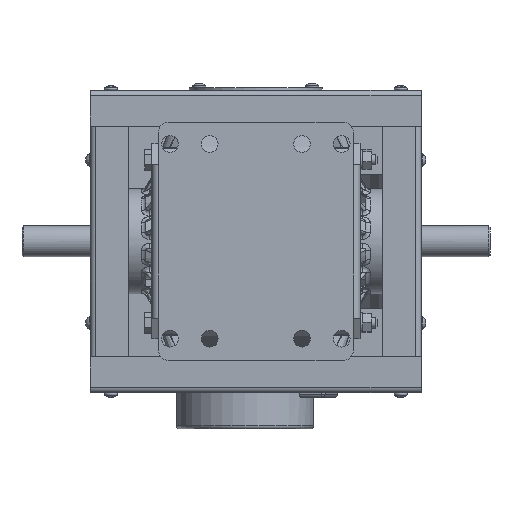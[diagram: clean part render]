
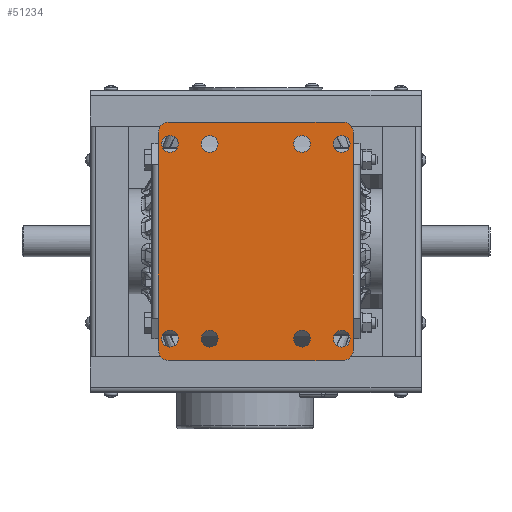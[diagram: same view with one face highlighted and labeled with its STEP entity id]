
A CAD part, left-side view. The second image highlights one B-rep face of the part: STEP entity #51234.
In plain terms, the highlighted planar face has unit normal (-1, 0, 0).
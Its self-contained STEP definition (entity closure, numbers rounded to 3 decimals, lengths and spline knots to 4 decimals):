
#5573=LINE('',#116943,#7912);
#5574=LINE('',#116945,#7913);
#5575=LINE('',#116947,#7914);
#5576=LINE('',#116951,#7915);
#5577=LINE('',#116955,#7916);
#5578=LINE('',#116957,#7917);
#5579=LINE('',#116959,#7918);
#5580=LINE('',#116963,#7919);
#7912=VECTOR('',#68269,39.3701);
#7913=VECTOR('',#68270,39.3701);
#7914=VECTOR('',#68271,39.3701);
#7915=VECTOR('',#68274,39.3701);
#7916=VECTOR('',#68277,39.3701);
#7917=VECTOR('',#68278,39.3701);
#7918=VECTOR('',#68279,39.3701);
#7919=VECTOR('',#68282,39.3701);
#9422=FACE_BOUND('',#15069,.T.);
#9423=FACE_BOUND('',#15070,.T.);
#9424=FACE_BOUND('',#15071,.T.);
#9425=FACE_BOUND('',#15072,.T.);
#9426=FACE_BOUND('',#15073,.T.);
#9427=FACE_BOUND('',#15074,.T.);
#9428=FACE_BOUND('',#15075,.T.);
#9429=FACE_BOUND('',#15076,.T.);
#11614=FACE_OUTER_BOUND('',#15068,.T.);
#15068=EDGE_LOOP('',(#42826,#42827,#42828,#42829,#42830,#42831,#42832,#42833,
#42834,#42835,#42836,#42837));
#15069=EDGE_LOOP('',(#42838));
#15070=EDGE_LOOP('',(#42839));
#15071=EDGE_LOOP('',(#42840));
#15072=EDGE_LOOP('',(#42841));
#15073=EDGE_LOOP('',(#42842));
#15074=EDGE_LOOP('',(#42843));
#15075=EDGE_LOOP('',(#42844));
#15076=EDGE_LOOP('',(#42845));
#18513=CIRCLE('',#56420,0.2031);
#18515=CIRCLE('',#56423,0.2031);
#18517=CIRCLE('',#56426,0.2031);
#18519=CIRCLE('',#56429,0.2031);
#18521=CIRCLE('',#56432,0.2031);
#18523=CIRCLE('',#56435,0.2031);
#18525=CIRCLE('',#56438,0.2031);
#18527=CIRCLE('',#56441,0.2031);
#18539=CIRCLE('',#56457,0.25);
#18540=CIRCLE('',#56458,0.25);
#18541=CIRCLE('',#56459,0.25);
#18542=CIRCLE('',#56460,0.25);
#22794=VERTEX_POINT('',#116859);
#22796=VERTEX_POINT('',#116865);
#22798=VERTEX_POINT('',#116871);
#22800=VERTEX_POINT('',#116877);
#22802=VERTEX_POINT('',#116883);
#22804=VERTEX_POINT('',#116889);
#22806=VERTEX_POINT('',#116895);
#22808=VERTEX_POINT('',#116901);
#22823=VERTEX_POINT('',#116941);
#22824=VERTEX_POINT('',#116942);
#22825=VERTEX_POINT('',#116944);
#22826=VERTEX_POINT('',#116946);
#22827=VERTEX_POINT('',#116948);
#22828=VERTEX_POINT('',#116950);
#22829=VERTEX_POINT('',#116952);
#22830=VERTEX_POINT('',#116954);
#22831=VERTEX_POINT('',#116956);
#22832=VERTEX_POINT('',#116958);
#22833=VERTEX_POINT('',#116960);
#22834=VERTEX_POINT('',#116962);
#29619=EDGE_CURVE('',#22794,#22794,#18513,.T.);
#29622=EDGE_CURVE('',#22796,#22796,#18515,.T.);
#29625=EDGE_CURVE('',#22798,#22798,#18517,.T.);
#29628=EDGE_CURVE('',#22800,#22800,#18519,.T.);
#29631=EDGE_CURVE('',#22802,#22802,#18521,.T.);
#29634=EDGE_CURVE('',#22804,#22804,#18523,.T.);
#29637=EDGE_CURVE('',#22806,#22806,#18525,.T.);
#29640=EDGE_CURVE('',#22808,#22808,#18527,.T.);
#29661=EDGE_CURVE('',#22823,#22824,#5573,.T.);
#29662=EDGE_CURVE('',#22823,#22825,#5574,.T.);
#29663=EDGE_CURVE('',#22826,#22825,#5575,.T.);
#29664=EDGE_CURVE('',#22826,#22827,#18539,.T.);
#29665=EDGE_CURVE('',#22828,#22827,#5576,.T.);
#29666=EDGE_CURVE('',#22828,#22829,#18540,.T.);
#29667=EDGE_CURVE('',#22830,#22829,#5577,.T.);
#29668=EDGE_CURVE('',#22830,#22831,#5578,.T.);
#29669=EDGE_CURVE('',#22832,#22831,#5579,.T.);
#29670=EDGE_CURVE('',#22832,#22833,#18541,.T.);
#29671=EDGE_CURVE('',#22834,#22833,#5580,.T.);
#29672=EDGE_CURVE('',#22834,#22824,#18542,.T.);
#42826=ORIENTED_EDGE('',*,*,#29661,.F.);
#42827=ORIENTED_EDGE('',*,*,#29662,.T.);
#42828=ORIENTED_EDGE('',*,*,#29663,.F.);
#42829=ORIENTED_EDGE('',*,*,#29664,.T.);
#42830=ORIENTED_EDGE('',*,*,#29665,.F.);
#42831=ORIENTED_EDGE('',*,*,#29666,.T.);
#42832=ORIENTED_EDGE('',*,*,#29667,.F.);
#42833=ORIENTED_EDGE('',*,*,#29668,.T.);
#42834=ORIENTED_EDGE('',*,*,#29669,.F.);
#42835=ORIENTED_EDGE('',*,*,#29670,.T.);
#42836=ORIENTED_EDGE('',*,*,#29671,.F.);
#42837=ORIENTED_EDGE('',*,*,#29672,.T.);
#42838=ORIENTED_EDGE('',*,*,#29640,.T.);
#42839=ORIENTED_EDGE('',*,*,#29637,.T.);
#42840=ORIENTED_EDGE('',*,*,#29634,.T.);
#42841=ORIENTED_EDGE('',*,*,#29631,.T.);
#42842=ORIENTED_EDGE('',*,*,#29619,.T.);
#42843=ORIENTED_EDGE('',*,*,#29622,.T.);
#42844=ORIENTED_EDGE('',*,*,#29625,.T.);
#42845=ORIENTED_EDGE('',*,*,#29628,.T.);
#48927=PLANE('',#56456);
#51234=ADVANCED_FACE('',(#11614,#9422,#9423,#9424,#9425,#9426,#9427,#9428,
#9429),#48927,.T.);
#56420=AXIS2_PLACEMENT_3D('',#116860,#68179,#68180);
#56423=AXIS2_PLACEMENT_3D('',#116866,#68186,#68187);
#56426=AXIS2_PLACEMENT_3D('',#116872,#68193,#68194);
#56429=AXIS2_PLACEMENT_3D('',#116878,#68200,#68201);
#56432=AXIS2_PLACEMENT_3D('',#116884,#68207,#68208);
#56435=AXIS2_PLACEMENT_3D('',#116890,#68214,#68215);
#56438=AXIS2_PLACEMENT_3D('',#116896,#68221,#68222);
#56441=AXIS2_PLACEMENT_3D('',#116902,#68228,#68229);
#56456=AXIS2_PLACEMENT_3D('',#116940,#68267,#68268);
#56457=AXIS2_PLACEMENT_3D('',#116949,#68272,#68273);
#56458=AXIS2_PLACEMENT_3D('',#116953,#68275,#68276);
#56459=AXIS2_PLACEMENT_3D('',#116961,#68280,#68281);
#56460=AXIS2_PLACEMENT_3D('',#116964,#68283,#68284);
#68179=DIRECTION('center_axis',(1.,0.,0.));
#68180=DIRECTION('ref_axis',(0.,-1.,0.));
#68186=DIRECTION('center_axis',(1.,0.,0.));
#68187=DIRECTION('ref_axis',(0.,-1.,0.));
#68193=DIRECTION('center_axis',(1.,0.,0.));
#68194=DIRECTION('ref_axis',(0.,-1.,0.));
#68200=DIRECTION('center_axis',(1.,0.,0.));
#68201=DIRECTION('ref_axis',(0.,-1.,0.));
#68207=DIRECTION('center_axis',(1.,0.,0.));
#68208=DIRECTION('ref_axis',(0.,-1.,0.));
#68214=DIRECTION('center_axis',(1.,0.,0.));
#68215=DIRECTION('ref_axis',(0.,-1.,0.));
#68221=DIRECTION('center_axis',(1.,0.,0.));
#68222=DIRECTION('ref_axis',(0.,-1.,0.));
#68228=DIRECTION('center_axis',(1.,0.,0.));
#68229=DIRECTION('ref_axis',(0.,-1.,0.));
#68267=DIRECTION('center_axis',(-1.,0.,0.));
#68268=DIRECTION('ref_axis',(0.,1.,0.));
#68269=DIRECTION('',(0.,0.,1.));
#68270=DIRECTION('',(0.,0.,-1.));
#68271=DIRECTION('',(0.,0.,1.));
#68272=DIRECTION('center_axis',(-1.,0.,0.));
#68273=DIRECTION('ref_axis',(0.,1.,0.));
#68274=DIRECTION('',(0.,1.,0.));
#68275=DIRECTION('center_axis',(-1.,0.,0.));
#68276=DIRECTION('ref_axis',(0.,1.,0.));
#68277=DIRECTION('',(0.,0.,-1.));
#68278=DIRECTION('',(0.,0.,1.));
#68279=DIRECTION('',(0.,0.,-1.));
#68280=DIRECTION('center_axis',(-1.,0.,0.));
#68281=DIRECTION('ref_axis',(0.,1.,0.));
#68282=DIRECTION('',(0.,-1.,0.));
#68283=DIRECTION('center_axis',(-1.,0.,0.));
#68284=DIRECTION('ref_axis',(0.,1.,0.));
#116859=CARTESIAN_POINT('',(-3.289,2.2732,2.3421));
#116860=CARTESIAN_POINT('Origin',(-3.289,2.0701,2.3421));
#116865=CARTESIAN_POINT('',(-3.289,1.3044,2.3421));
#116866=CARTESIAN_POINT('Origin',(-3.289,1.1013,2.3421));
#116871=CARTESIAN_POINT('',(-3.289,-0.9456,2.3421));
#116872=CARTESIAN_POINT('Origin',(-3.289,-1.1487,2.3421));
#116877=CARTESIAN_POINT('',(-3.289,-1.9143,2.3421));
#116878=CARTESIAN_POINT('Origin',(-3.289,-2.1174,2.3421));
#116883=CARTESIAN_POINT('',(-3.289,-1.9143,-2.4079));
#116884=CARTESIAN_POINT('Origin',(-3.289,-2.1174,-2.4079));
#116889=CARTESIAN_POINT('',(-3.289,-0.9456,-2.4079));
#116890=CARTESIAN_POINT('Origin',(-3.289,-1.1487,-2.4079));
#116895=CARTESIAN_POINT('',(-3.289,1.3044,-2.4079));
#116896=CARTESIAN_POINT('Origin',(-3.289,1.1013,-2.4079));
#116901=CARTESIAN_POINT('',(-3.289,2.2732,-2.4079));
#116902=CARTESIAN_POINT('Origin',(-3.289,2.0701,-2.4079));
#116940=CARTESIAN_POINT('Origin',(-3.289,-0.0237,
-0.0329));
#116941=CARTESIAN_POINT('',(-3.289,2.3513,1.8421));
#116942=CARTESIAN_POINT('',(-3.289,2.3513,2.6233));
#116943=CARTESIAN_POINT('',(-3.289,2.3513,2.8733));
#116944=CARTESIAN_POINT('',(-3.289,2.3513,-1.9079));
#116945=CARTESIAN_POINT('',(-3.289,2.3513,-0.0329));
#116946=CARTESIAN_POINT('',(-3.289,2.3513,-2.6892));
#116947=CARTESIAN_POINT('',(-3.289,2.3513,2.8733));
#116948=CARTESIAN_POINT('',(-3.289,2.1013,-2.9392));
#116949=CARTESIAN_POINT('Origin',(-3.289,2.1013,-2.6892));
#116950=CARTESIAN_POINT('',(-3.289,-2.1487,-2.9392));
#116951=CARTESIAN_POINT('',(-3.289,-2.3987,-2.9392));
#116952=CARTESIAN_POINT('',(-3.289,-2.3987,-2.6892));
#116953=CARTESIAN_POINT('Origin',(-3.289,-2.1487,-2.6892));
#116954=CARTESIAN_POINT('',(-3.289,-2.3987,-1.9079));
#116955=CARTESIAN_POINT('',(-3.289,-2.3987,2.8733));
#116956=CARTESIAN_POINT('',(-3.289,-2.3987,1.8421));
#116957=CARTESIAN_POINT('',(-3.289,-2.3987,-0.0329));
#116958=CARTESIAN_POINT('',(-3.289,-2.3987,2.6233));
#116959=CARTESIAN_POINT('',(-3.289,-2.3987,2.8733));
#116960=CARTESIAN_POINT('',(-3.289,-2.1487,2.8733));
#116961=CARTESIAN_POINT('Origin',(-3.289,-2.1487,2.6233));
#116962=CARTESIAN_POINT('',(-3.289,2.1013,2.8733));
#116963=CARTESIAN_POINT('',(-3.289,-2.3987,2.8733));
#116964=CARTESIAN_POINT('Origin',(-3.289,2.1013,2.6233));
